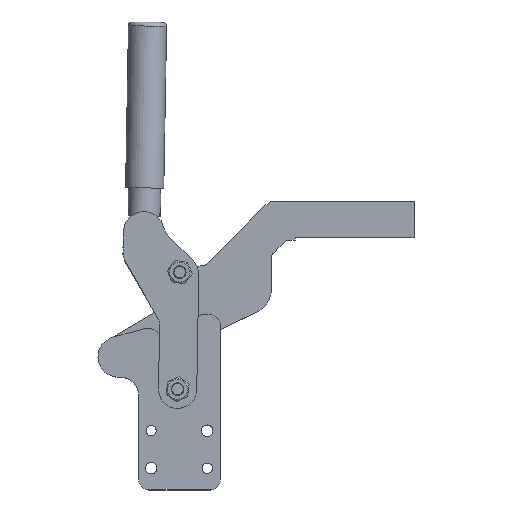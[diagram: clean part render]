
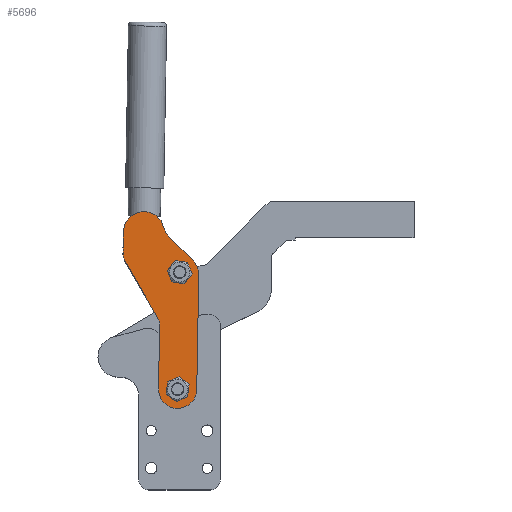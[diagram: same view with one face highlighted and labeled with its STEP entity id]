
A CAD part, top view. The second image highlights one B-rep face of the part: STEP entity #5696.
In plain terms, the highlighted planar face has unit normal (0, 0, 1).
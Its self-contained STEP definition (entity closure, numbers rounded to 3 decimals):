
#2894=CARTESIAN_POINT('',(-14.805,629.585,69.55));
#2895=VERTEX_POINT('',#2894);
#2904=CARTESIAN_POINT('',(-24.444,617.32,69.55));
#2905=VERTEX_POINT('',#2904);
#2906=CARTESIAN_POINT('',(-19.625,623.453,69.55));
#2907=DIRECTION('',(0.,0.,-1.0));
#2908=DIRECTION('',(0.618,0.786,0.));
#2909=AXIS2_PLACEMENT_3D('',#2906,#2907,#2908);
#2910=CIRCLE('',#2909,7.8);
#2911=EDGE_CURVE('',#2895,#2905,#2910,.F.);
#3316=CARTESIAN_POINT('',(-22.15,523.8,69.55));
#3317=VERTEX_POINT('',#3316);
#3326=CARTESIAN_POINT('',(-20.338,539.294,69.55));
#3327=VERTEX_POINT('',#3326);
#3328=CARTESIAN_POINT('',(-21.244,531.547,69.55));
#3329=DIRECTION('',(0.,0.,-1.0));
#3330=DIRECTION('',(-0.116,-0.993,0.));
#3331=AXIS2_PLACEMENT_3D('',#3328,#3329,#3330);
#3332=CIRCLE('',#3331,7.8);
#3333=EDGE_CURVE('',#3317,#3327,#3332,.F.);
#4291=CARTESIAN_POINT('',(-21.244,531.547,69.55));
#4292=DIRECTION('',(0.,0.,-1.0));
#4293=DIRECTION('',(-0.116,-0.993,0.));
#4294=AXIS2_PLACEMENT_3D('',#4291,#4292,#4293);
#4295=CIRCLE('',#4294,7.8);
#4296=EDGE_CURVE('',#3327,#3317,#4295,.F.);
#4669=CARTESIAN_POINT('',(-19.625,623.453,69.55));
#4670=DIRECTION('',(0.,0.,-1.0));
#4671=DIRECTION('',(0.618,0.786,0.));
#4672=AXIS2_PLACEMENT_3D('',#4669,#4670,#4671);
#4673=CIRCLE('',#4672,7.8);
#4674=EDGE_CURVE('',#2905,#2895,#4673,.F.);
#5304=CARTESIAN_POINT('',(-36.242,531.811,69.55));
#5305=VERTEX_POINT('',#5304);
#5306=CARTESIAN_POINT('',(-35.353,582.222,69.55));
#5307=VERTEX_POINT('',#5306);
#5308=CARTESIAN_POINT('',(-36.242,531.811,69.55));
#5309=DIRECTION('',(0.018,1.,0.));
#5310=VECTOR('',#5309,50.418);
#5311=LINE('',#5308,#5310);
#5312=EDGE_CURVE('',#5305,#5307,#5311,.T.);
#5335=CARTESIAN_POINT('',(-6.246,531.283,69.55));
#5336=VERTEX_POINT('',#5335);
#5337=CARTESIAN_POINT('',(-21.244,531.547,69.55));
#5338=DIRECTION('',(0.,0.,-1.0));
#5339=DIRECTION('',(1.,-0.018,0.));
#5340=AXIS2_PLACEMENT_3D('',#5337,#5338,#5339);
#5341=CIRCLE('',#5340,15.);
#5342=EDGE_CURVE('',#5336,#5305,#5341,.T.);
#5360=CARTESIAN_POINT('',(-4.658,621.422,69.55));
#5361=VERTEX_POINT('',#5360);
#5362=CARTESIAN_POINT('',(-4.658,621.422,69.55));
#5363=DIRECTION('',(-0.018,-1.,0.));
#5364=VECTOR('',#5363,90.154);
#5365=LINE('',#5362,#5364);
#5366=EDGE_CURVE('',#5361,#5336,#5365,.T.);
#5384=CARTESIAN_POINT('',(-9.029,632.273,69.55));
#5385=VERTEX_POINT('',#5384);
#5386=CARTESIAN_POINT('',(-19.656,621.687,69.55));
#5387=DIRECTION('',(0.,0.,-1.0));
#5388=DIRECTION('',(-1.,0.018,0.));
#5389=AXIS2_PLACEMENT_3D('',#5386,#5387,#5388);
#5390=CIRCLE('',#5389,15.);
#5391=EDGE_CURVE('',#5385,#5361,#5390,.T.);
#5409=CARTESIAN_POINT('',(-28.193,651.511,69.55));
#5410=VERTEX_POINT('',#5409);
#5411=CARTESIAN_POINT('',(-28.193,651.511,69.55));
#5412=DIRECTION('',(0.706,-0.708,0.0));
#5413=VECTOR('',#5412,27.155);
#5414=LINE('',#5411,#5413);
#5415=EDGE_CURVE('',#5410,#5385,#5414,.T.);
#5433=CARTESIAN_POINT('',(-32.155,658.606,69.55));
#5434=VERTEX_POINT('',#5433);
#5435=CARTESIAN_POINT('',(-17.566,662.097,69.55));
#5436=DIRECTION('',(0.,0.,1.0));
#5437=DIRECTION('',(-0.973,-0.233,0.));
#5438=AXIS2_PLACEMENT_3D('',#5435,#5436,#5437);
#5439=CIRCLE('',#5438,15.0);
#5440=EDGE_CURVE('',#5434,#5410,#5439,.T.);
#5458=CARTESIAN_POINT('',(-63.713,655.164,69.55));
#5459=VERTEX_POINT('',#5458);
#5460=CARTESIAN_POINT('',(-47.715,654.883,69.55));
#5461=DIRECTION('',(0.,0.,-1.0));
#5462=DIRECTION('',(-0.973,-0.233,0.));
#5463=AXIS2_PLACEMENT_3D('',#5460,#5461,#5462);
#5464=CIRCLE('',#5463,16.);
#5465=EDGE_CURVE('',#5459,#5434,#5464,.T.);
#5483=CARTESIAN_POINT('',(-63.932,642.736,69.55));
#5484=VERTEX_POINT('',#5483);
#5491=CARTESIAN_POINT('',(-63.932,642.736,69.55));
#5492=DIRECTION('',(0.018,1.,0.0));
#5493=VECTOR('',#5492,12.43);
#5494=LINE('',#5491,#5493);
#5495=EDGE_CURVE('',#5484,#5459,#5494,.T.);
#5507=CARTESIAN_POINT('',(-62.679,632.246,69.55));
#5508=VERTEX_POINT('',#5507);
#5509=CARTESIAN_POINT('',(-64.025,637.435,69.55));
#5510=VERTEX_POINT('',#5509);
#5511=CARTESIAN_POINT('',(-54.027,637.259,69.55));
#5512=DIRECTION('',(0.,0.,-1.));
#5513=DIRECTION('',(1.,-0.018,0.));
#5514=AXIS2_PLACEMENT_3D('',#5511,#5512,#5513);
#5515=CIRCLE('',#5514,10.0);
#5516=EDGE_CURVE('',#5508,#5510,#5515,.T.);
#5539=CARTESIAN_POINT('',(-36.699,587.412,69.55));
#5540=VERTEX_POINT('',#5539);
#5541=CARTESIAN_POINT('',(-36.699,587.412,69.55));
#5542=DIRECTION('',(-0.501,0.865,0.));
#5543=VECTOR('',#5542,51.817);
#5544=LINE('',#5541,#5543);
#5545=EDGE_CURVE('',#5540,#5508,#5544,.T.);
#5563=CARTESIAN_POINT('',(-45.352,582.398,69.55));
#5564=DIRECTION('',(0.,0.,1.));
#5565=DIRECTION('',(1.,-0.018,0.));
#5566=AXIS2_PLACEMENT_3D('',#5563,#5564,#5565);
#5567=CIRCLE('',#5566,10.0);
#5568=EDGE_CURVE('',#5307,#5540,#5567,.T.);
#5581=CARTESIAN_POINT('',(-64.02,637.737,69.55));
#5582=VERTEX_POINT('',#5581);
#5591=CARTESIAN_POINT('',(-64.025,637.435,69.55));
#5592=DIRECTION('',(0.018,1.,0.0));
#5593=VECTOR('',#5592,0.302);
#5594=LINE('',#5591,#5593);
#5595=EDGE_CURVE('',#5510,#5582,#5594,.T.);
#5605=CARTESIAN_POINT('',(-64.42,637.744,69.55));
#5606=VERTEX_POINT('',#5605);
#5607=CARTESIAN_POINT('',(-64.02,637.737,69.55));
#5608=DIRECTION('',(-1.,0.018,0.0));
#5609=VECTOR('',#5608,0.401);
#5610=LINE('',#5607,#5609);
#5611=EDGE_CURVE('',#5582,#5606,#5610,.T.);
#5629=CARTESIAN_POINT('',(-64.332,642.743,69.55));
#5630=VERTEX_POINT('',#5629);
#5631=CARTESIAN_POINT('',(-64.332,642.743,69.55));
#5632=DIRECTION('',(1.,-0.018,0.0));
#5633=VECTOR('',#5632,0.401);
#5634=LINE('',#5631,#5633);
#5635=EDGE_CURVE('',#5630,#5484,#5634,.T.);
#5655=CARTESIAN_POINT('',(-71.975,640.378,69.55));
#5656=DIRECTION('',(0.,0.,1.));
#5657=DIRECTION('',(-0.955,-0.296,0.));
#5658=AXIS2_PLACEMENT_3D('',#5655,#5656,#5657);
#5659=CIRCLE('',#5658,8.);
#5660=EDGE_CURVE('',#5606,#5630,#5659,.T.);
#5666=CARTESIAN_POINT('',(-29.409,595.64,69.55));
#5667=DIRECTION('',(0.0,0.0,1.0));
#5668=DIRECTION('',(1.,-0.018,0.0));
#5669=AXIS2_PLACEMENT_3D('',#5666,#5667,#5668);
#5670=PLANE('',#5669);
#5671=ORIENTED_EDGE('',*,*,#5568,.F.);
#5672=ORIENTED_EDGE('',*,*,#5312,.F.);
#5673=ORIENTED_EDGE('',*,*,#5342,.F.);
#5674=ORIENTED_EDGE('',*,*,#5366,.F.);
#5675=ORIENTED_EDGE('',*,*,#5391,.F.);
#5676=ORIENTED_EDGE('',*,*,#5415,.F.);
#5677=ORIENTED_EDGE('',*,*,#5440,.F.);
#5678=ORIENTED_EDGE('',*,*,#5465,.F.);
#5679=ORIENTED_EDGE('',*,*,#5495,.F.);
#5680=ORIENTED_EDGE('',*,*,#5635,.F.);
#5681=ORIENTED_EDGE('',*,*,#5660,.F.);
#5682=ORIENTED_EDGE('',*,*,#5611,.F.);
#5683=ORIENTED_EDGE('',*,*,#5595,.F.);
#5684=ORIENTED_EDGE('',*,*,#5516,.F.);
#5685=ORIENTED_EDGE('',*,*,#5545,.F.);
#5686=EDGE_LOOP('',(#5671,#5672,#5673,#5674,#5675,#5676,#5677,#5678,#5679,#5680,#5681,#5682,#5683,#5684,#5685));
#5687=FACE_OUTER_BOUND('',#5686,.T.);
#5688=ORIENTED_EDGE('',*,*,#2911,.F.);
#5689=ORIENTED_EDGE('',*,*,#4674,.F.);
#5690=EDGE_LOOP('',(#5688,#5689));
#5691=FACE_BOUND('',#5690,.T.);
#5692=ORIENTED_EDGE('',*,*,#3333,.F.);
#5693=ORIENTED_EDGE('',*,*,#4296,.F.);
#5694=EDGE_LOOP('',(#5692,#5693));
#5695=FACE_BOUND('',#5694,.T.);
#5696=ADVANCED_FACE('',(#5687,#5691,#5695),#5670,.T.);
